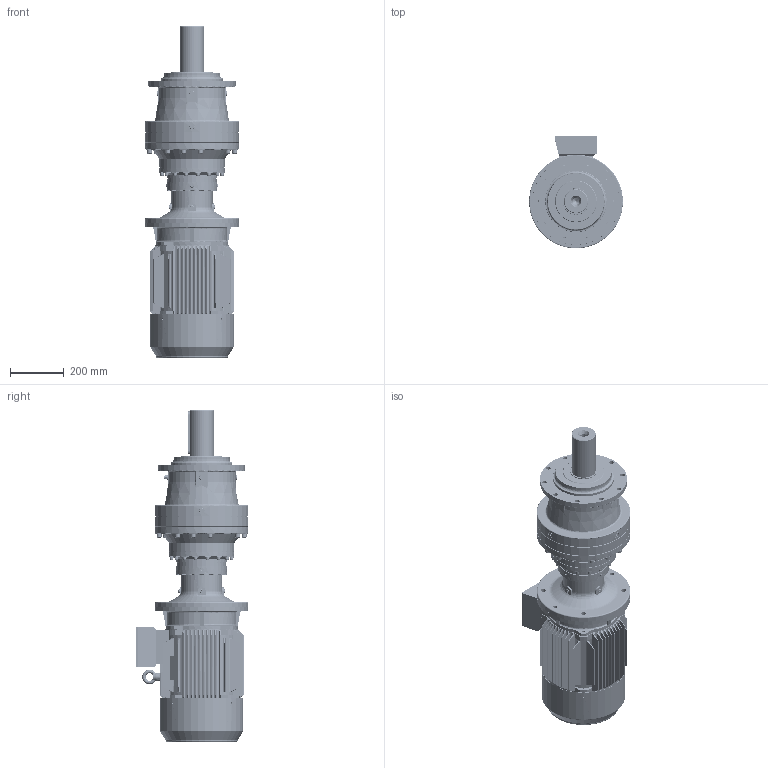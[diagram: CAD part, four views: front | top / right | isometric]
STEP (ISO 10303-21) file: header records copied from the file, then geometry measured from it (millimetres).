
FILE_DESCRIPTION (( 'STEP AP203' ), '1' );
FILE_NAME ('PVL-2303L-HS160M-4.STEP', '2019-05-27T08:02:46', ( '' ), ( '' ), 'SwSTEP 2.0', 'SolidWorks 2012', '' );
FILE_SCHEMA (( 'CONFIG_CONTROL_DESIGN' ));
Products named in the file (18): PVL-2303L-HS160M-4; M3-160M-FF-B5; M3-HS160M-FF-B5; Y2-160_shaft; +ª+§ªiY2-160ñ»ª­_-++ñ; Y2-160ñ»ª­+¿_-++ñ; Y2-160M+À+¿(B5)_-++ñ; Y2-160-180ñ»ª­®+_-++ñ; Y2-160-4Ý¾6Ý¾8-ª+---®+_-++ñ; Y2-160-2ª¥--®+_-++ñ; Eyebolts GB_GB_FASTENER_SCREWS_FRS M12; +¦i-MN2-160_-++ñ; EK2303L_Varsayìlan; FL7A_Varsayìlan; PNL_2303L_0_0_A16_B5_ML31A_FL7A_0_0_0_0_0_0_0_0_0_0_0_M1; ML31A_Varsayìlan; 11160B5_Varsayìlan; P23_Varsayìlan
Assembly tree (17 placements, depth 5):
  PVL-2303L-HS160M-4
    PNL_2303L_0_0_A16_B5_ML31A_FL7A_0_0_0_0_0_0_0_0_0_0_0_M1
      P23_Varsayìlan
      11160B5_Varsayìlan
      ML31A_Varsayìlan
      EK2303L_Varsayìlan
      FL7A_Varsayìlan
    M3-HS160M-FF-B5
      M3-160M-FF-B5
        Eyebolts GB_GB_FASTENER_SCREWS_FRS M12
        Y2-160-4Ý¾6Ý¾8-ª+---®+_-++ñ
        +¦i-MN2-160_-++ñ
        Y2-160-2ª¥--®+_-++ñ
        +ª+§ªiY2-160ñ»ª­_-++ñ
          Y2-160-180ñ»ª­®+_-++ñ
          Y2-160ñ»ª­+¿_-++ñ
        Y2-160M+À+¿(B5)_-++ñ
        Y2-160_shaft
Bounding box: 350 x 422 x 1240.1 mm (x, y, z)
Volume: 34951281.9 mm3; surface area: 3678002.8 mm2
Topology: 16 solids, 29 shells, 4442 faces, 11249 edges, 6939 vertices
Faces by surface type: cylinder 1573, plane 1367, cone 753, bspline 628, torus 81, sphere 40
Full cylindrical faces by diameter (mm): 8.566 x1
Entity records: 194641 total; most frequent: CARTESIAN_POINT 90734, ORIENTED_EDGE 22196, DIRECTION 20452, EDGE_CURVE 11106, AXIS2_PLACEMENT_3D 8009, VERTEX_POINT 6925, EDGE_LOOP 4834, ADVANCED_FACE 4441
